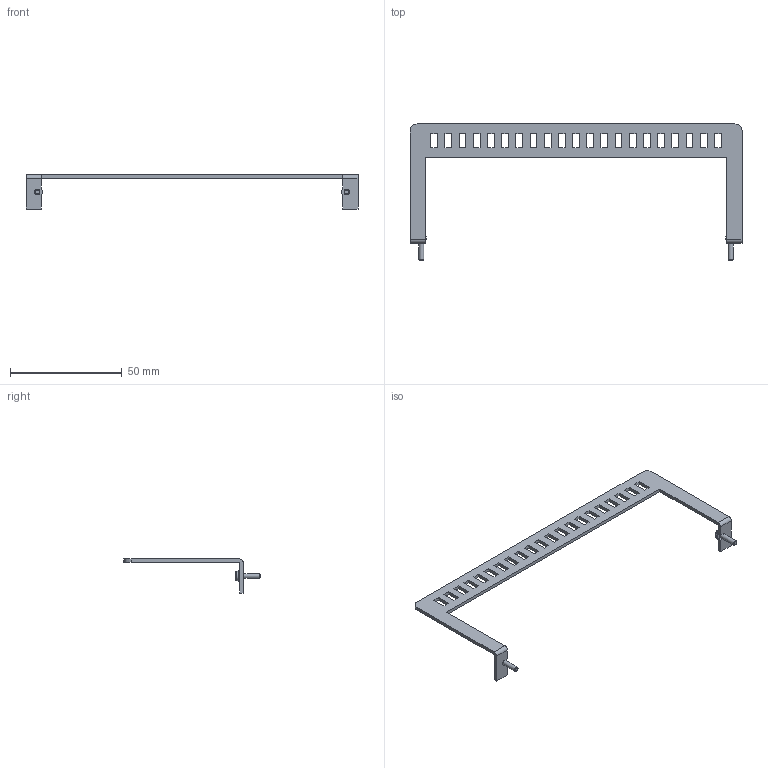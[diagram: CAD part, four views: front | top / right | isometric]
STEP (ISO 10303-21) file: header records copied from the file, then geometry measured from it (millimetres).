
FILE_DESCRIPTION(/* description */ ('SCREW'),/* implementation_level */ '2;1');
FILE_NAME(/* name */ 'C:\Marketing\Inventor Web Projects\STP files\7850302S-202-RevC-STP.stp',/* time_stamp */ '2014-02-21T09:16:27-05:00',/* author */ ('shodnett'),/* organization */ (''),/* preprocessor_version */ 'ST-DEVELOPER v15.2',/* originating_system */ 'Autodesk Inventor 2014',/* authorisation */ '');
FILE_SCHEMA (('AUTOMOTIVE_DESIGN { 1 0 10303 214 3 1 1 }'));
Length unit declared in the file: inch
Products named in the file (3): 256F205; 7850302SB202; 7850302S-202
Bounding box: 148.59 x 60.94 x 15.24 mm (x, y, z)
Volume: 3942.3 mm3; surface area: 6695.6 mm2
Topology: 3 solids, 3 shells, 162 faces, 454 edges, 302 vertices
Faces by surface type: plane 144, cylinder 14, torus 2, cone 2
Full cylindrical faces by diameter (mm): 2.184 x2, 4.191 x2, 4.699 x2
Entity records: 4547 total; most frequent: CARTESIAN_POINT 835, ORIENTED_EDGE 770, DIRECTION 686, EDGE_CURVE 385, LINE 346, VECTOR 346, VERTEX_POINT 259, EDGE_LOOP 186
